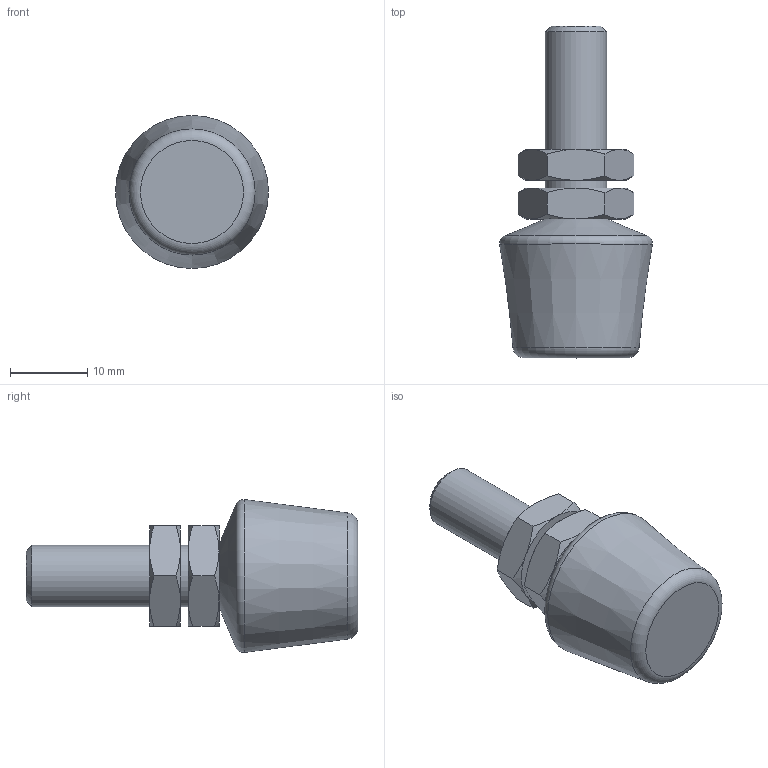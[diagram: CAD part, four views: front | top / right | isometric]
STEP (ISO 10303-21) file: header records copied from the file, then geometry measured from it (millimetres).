
FILE_DESCRIPTION( ( 'STEP AP203' ), '1' );
FILE_NAME( 'C:/Temp/Ganter_Step_05_03_2020/data/2_4/gn_708_1/gn_708_1_st/Clamping bolt GN 708.1-M8-43-A-ST (0).stp', '2020-03-13T05:51:06', ( 'License CC BY-ND 4.0' ), ( 'CADENAS' ), ' ', 'PARTsolutions', ' ' );
FILE_SCHEMA( ( 'CONFIG_CONTROL_DESIGN' ) );
Length unit declared in the file: millimetre
Products named in the file (3): Clamping bolt GN 708.1-M8-43-A-ST (0); _Andrueckschraube GN 708.1-M8-43-A-ST (0)-1; _Andrueckschraube GN 708.1-M8-43-A-ST2
Assembly tree (3 placements, depth 2):
  Clamping bolt GN 708.1-M8-43-A-ST (0)
    _Andrueckschraube GN 708.1-M8-43-A-ST (0)-1
    _Andrueckschraube GN 708.1-M8-43-A-ST2  x2
Bounding box: 19.82 x 43 x 19.82 mm (x, y, z)
Volume: 6457.7 mm3; surface area: 2914 mm2
Topology: 3 solids, 3 shells, 54 faces, 111 edges, 63 vertices
Faces by surface type: cone 31, plane 18, cylinder 3, torus 2
Full cylindrical faces by diameter (mm): 6.647 x2, 8 x1
Entity records: 954 total; most frequent: CARTESIAN_POINT 260, DIRECTION 122, ORIENTED_EDGE 106, AXIS2_PLACEMENT_3D 58, EDGE_CURVE 53, EDGE_LOOP 42, VERTEX_POINT 36, FACE_OUTER_BOUND 35
